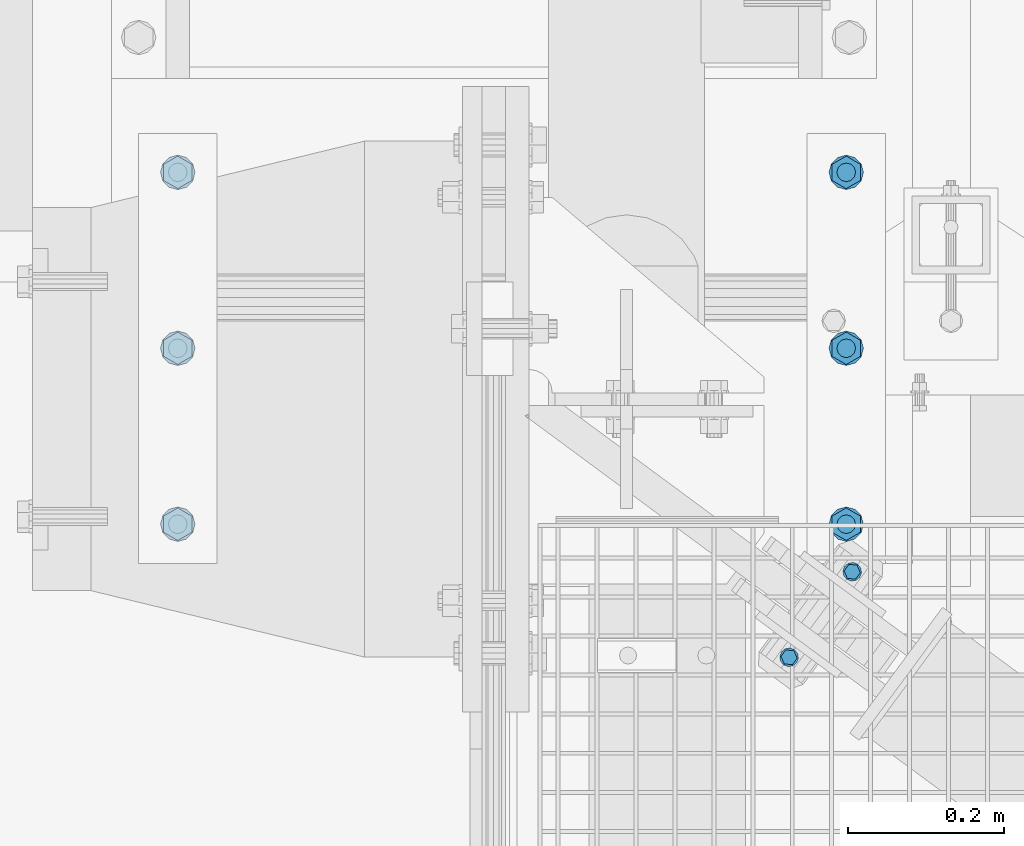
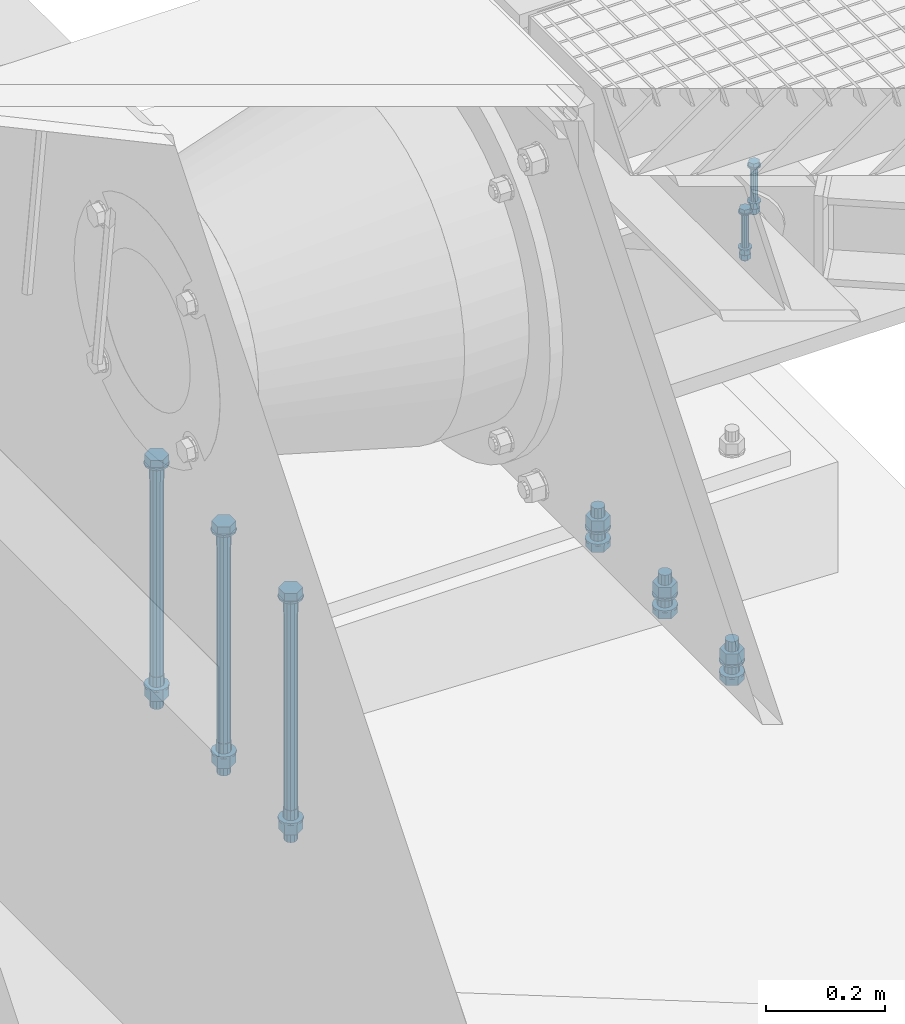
# One storey, part 33 of 1530: 3 mechanical fasteners.
"""IFC2X3 building model written with IfcOpenShell, lengths in millimetres."""

import ifcopenshell
import ifcopenshell.guid

model = None  # the IFC model being written
_history = None  # IfcOwnerHistory: only IFC2X3 demands one
_inside = {}  # id of a spatial element -> (the spatial element, [elements in it])
_under = {}  # id of a project, library or spatial element -> (it, [spatial elements below it])
_declared = {}  # id of a project -> (the project, [libraries it declares])
_typed = {}  # id of a type object -> (the type object, [elements of that type])
_made_of = {}  # id of a material, layer set ... -> (it, [elements and type objects made of it])


def new_model(schema):
    """Start an empty IFC model of exactly this schema.

    Asked for "IFC4X3", IfcOpenShell would pick the latest addendum, in which some entities
    have other attributes; the version numbers below select the first issue.
    IFC2X3 requires an IfcOwnerHistory on every rooted entity: one is made here for all.
    """
    global model, _history
    if schema == "IFC4X3":
        model = ifcopenshell.file(schema_version=(4, 3, 0, 0))
    else:
        model = ifcopenshell.file(schema=schema)
    _inside.clear()
    _under.clear()
    _declared.clear()
    _typed.clear()
    _made_of.clear()
    _history = None
    if model.schema == "IFC2X3":
        org = make("IfcOrganization", Name="unknown")
        user = make(
            "IfcPersonAndOrganization",
            ThePerson=make("IfcPerson", FamilyName="unknown"),
            TheOrganization=org,
        )
        app = make(
            "IfcApplication",
            ApplicationDeveloper=org,
            Version="unknown",
            ApplicationFullName="unknown",
            ApplicationIdentifier="unknown",
        )
        _history = make(
            "IfcOwnerHistory",
            OwningUser=user,
            OwningApplication=app,
            ChangeAction="ADDED",
            CreationDate=0,
        )
    return model


def make(cls, **values):
    """One entity of the class cls with the attributes given. An attribute that is None is left unset."""
    return model.create_entity(
        cls, **{name: value for name, value in values.items() if value is not None}
    )


def rooted(cls, **values):
    """An entity with a GlobalId (a new one), such as an element, a storey or a relation."""
    return make(cls, GlobalId=ifcopenshell.guid.new(), OwnerHistory=_history, **values)


def si_unit(unit_type, name, prefix=None):
    """IfcSIUnit, for example si_unit("LENGTHUNIT", "METRE", prefix="MILLI")."""
    return make("IfcSIUnit", UnitType=unit_type, Prefix=prefix, Name=name)


def assignment(units):
    """IfcUnitAssignment: the units of a project."""
    return None if units is None else make("IfcUnitAssignment", Units=units)


def point(xyz):
    """IfcCartesianPoint."""
    return None if xyz is None else make("IfcCartesianPoint", Coordinates=xyz)


def direction(xyz):
    """IfcDirection."""
    return None if xyz is None else make("IfcDirection", DirectionRatios=xyz)


def frame(location, z_axis=None, x_axis=None):
    """IfcAxis2Placement3D, a coordinate frame: its origin and axes. An axis left out is left unset."""
    return make(
        "IfcAxis2Placement3D",
        Location=point(location),
        Axis=direction(z_axis),
        RefDirection=direction(x_axis),
    )


def origin_with_axes():
    """The frame at (0, 0, 0) with the z axis (0, 0, 1) and the x axis (1, 0, 0) written out."""
    return frame((0.0, 0.0, 0.0), z_axis=(0.0, 0.0, 1.0), x_axis=(1.0, 0.0, 0.0))


def place(relative_to, where):
    """IfcLocalPlacement: puts the frame where relative to a parent placement (None: the world)."""
    return make(
        "IfcLocalPlacement", PlacementRelTo=relative_to, RelativePlacement=where
    )


def context(
    kind, dimensions, precision=None, world=None, true_north=None, identifier=None
):
    """IfcGeometricRepresentationContext, for example the 3D "Model" context."""
    return make(
        "IfcGeometricRepresentationContext",
        ContextIdentifier=identifier,
        ContextType=kind,
        CoordinateSpaceDimension=dimensions,
        Precision=precision,
        WorldCoordinateSystem=world,
        TrueNorth=true_north,
    )


def subcontext(parent, identifier, kind, view, scale=None):
    """IfcGeometricRepresentationSubContext, for example "Body" below "Model"."""
    return make(
        "IfcGeometricRepresentationSubContext",
        ContextIdentifier=identifier,
        ContextType=kind,
        ParentContext=parent,
        TargetScale=scale,
        TargetView=view,
    )


def project(units=None, contexts=None):
    """IfcProject with its units and contexts."""
    return rooted(
        "IfcProject",
        Name="project",
        RepresentationContexts=contexts,
        UnitsInContext=assignment(units),
    )


def spatial(cls, under=None, at=None, **own):
    """A site, building, storey or space (cls), placed at a placement, below another one or the project."""
    s = rooted(cls, ObjectPlacement=at, **own)
    if under is not None:
        _under.setdefault(under.id(), (under, []))[1].append(s)
    return s


def faces_of(points, faces, orient=None, outer=None):
    """IfcFace entities. A face is a list of loops; a loop is a list of indices into points, from 0.

    orient and outer hold one flag for each loop. By default every Orientation is true, the
    first loop of a face is its IfcFaceOuterBound and the others are IfcFaceBound.
    """
    made = []
    for i, loops in enumerate(faces):
        bounds = []
        for j, loop in enumerate(loops):
            is_outer = j == 0 if outer is None else outer[i][j]
            bounds.append(
                make(
                    "IfcFaceOuterBound" if is_outer else "IfcFaceBound",
                    Bound=make("IfcPolyLoop", Polygon=[points[k] for k in loop]),
                    Orientation=True if orient is None else orient[i][j],
                )
            )
        made.append(make("IfcFace", Bounds=bounds))
    return made


def faceted_brep(points, faces, orient=None, outer=None, voids=None):
    """IfcFacetedBrep: a solid bounded by flat faces; with voids (closed shells), ...WithVoids."""
    shared = [point(p) for p in points]
    hull = make("IfcClosedShell", CfsFaces=faces_of(shared, faces, orient, outer))
    if voids is None:
        return make("IfcFacetedBrep", Outer=hull)
    return make(
        "IfcFacetedBrepWithVoids",
        Outer=hull,
        Voids=[
            make(cls, CfsFaces=faces_of(shared, fs, o, b)) for cls, fs, o, b in voids
        ],
    )


def shape(context_of_items, identifier, shape_type, items):
    """IfcShapeRepresentation: the items that make up one representation, for example the "Body"."""
    return make(
        "IfcShapeRepresentation",
        ContextOfItems=context_of_items,
        RepresentationIdentifier=identifier,
        RepresentationType=shape_type,
        Items=items,
    )


def source(mapping_origin, context_of_items, identifier, shape_type, items):
    """IfcRepresentationMap: a shape defined once, which mapped items show again and again."""
    return make(
        "IfcRepresentationMap",
        MappingOrigin=mapping_origin,
        MappedRepresentation=shape(context_of_items, identifier, shape_type, items),
    )


def transform(
    local_origin,
    x_axis=None,
    y_axis=None,
    z_axis=None,
    scale=None,
    scale2=None,
    scale3=None,
    uniform=True,
):
    """IfcCartesianTransformationOperator3D, or its non-uniform kind. x_axis, y_axis, z_axis: its Axis1, 2, 3."""
    if uniform:
        return make(
            "IfcCartesianTransformationOperator3D",
            Axis1=direction(x_axis),
            Axis2=direction(y_axis),
            LocalOrigin=point(local_origin),
            Scale=scale,
            Axis3=direction(z_axis),
        )
    return make(
        "IfcCartesianTransformationOperator3DnonUniform",
        Axis1=direction(x_axis),
        Axis2=direction(y_axis),
        LocalOrigin=point(local_origin),
        Scale=scale,
        Axis3=direction(z_axis),
        Scale2=scale2,
        Scale3=scale3,
    )


def mapped(mapping_source, mapping_target):
    """IfcMappedItem: shows the shape of a source again, moved by a transform."""
    return make(
        "IfcMappedItem", MappingSource=mapping_source, MappingTarget=mapping_target
    )


def material(Name=None, Category=None):
    """IfcMaterial."""
    return make("IfcMaterial", Name=Name, Category=Category)


def made_of(thing, what):
    """Note that an element or type object is made of a material, layer set ...; save() writes the relation."""
    if what is not None:
        _made_of.setdefault(what.id(), (what, []))[1].append(thing)
    return thing


def type_object(cls, material=None, **own):
    """A type object (cls), such as IfcWallType, which elements share."""
    return made_of(rooted(cls, **own), material)


def element(
    cls,
    number,
    at=None,
    inside=None,
    cuts=None,
    type_object=None,
    material=None,
    context=None,
    identifier="Body",
    shape_type=None,
    held_by="IfcProductDefinitionShape",
    body=None,
    shapes=None,
    **own,
):
    """One element of the class cls, such as IfcWall. Its Tag is "e" and its number.

    at: its placement. inside: the storey or other place that contains it. cuts: it is an
    opening in that element (IfcRelVoidsElement). A single representation is given by context,
    identifier, shape_type and body (its items); several are given by shapes. held_by: the class
    of the entity that holds the representations. save() writes the other relations.
    """
    e = rooted(cls, Tag="e%d" % number, ObjectPlacement=at, **own)
    if body is not None:
        shapes = [shape(context, identifier, shape_type, body)]
    if shapes is not None:
        e.Representation = make(held_by, Representations=shapes)
    if inside is not None:
        _inside.setdefault(inside.id(), (inside, []))[1].append(e)
    if cuts is not None:
        rooted(
            "IfcRelVoidsElement", RelatingBuildingElement=cuts, RelatedOpeningElement=e
        )
    if type_object is not None:
        _typed.setdefault(type_object.id(), (type_object, []))[1].append(e)
    return made_of(e, material)


def aggregate(whole, parts):
    """IfcRelAggregates: a whole, such as a stair, and the parts it consists of."""
    return rooted("IfcRelAggregates", RelatingObject=whole, RelatedObjects=parts)


def save(model, path):
    """Write the relations noted so far, then the file.

    IfcRelAggregates (storeys below a building ...), IfcRelContainedInSpatialStructure (elements
    in a storey), IfcRelDefinesByType, IfcRelAssociatesMaterial and IfcRelDeclares: one each for
    every whole, place, type object, material and project.
    """
    for whole, parts in _under.values():
        aggregate(whole, parts)
    for where, things in _inside.values():
        rooted(
            "IfcRelContainedInSpatialStructure",
            RelatedElements=things,
            RelatingStructure=where,
        )
    for kind, things in _typed.values():
        rooted("IfcRelDefinesByType", RelatedObjects=things, RelatingType=kind)
    for what, things in _made_of.values():
        rooted("IfcRelAssociatesMaterial", RelatedObjects=things, RelatingMaterial=what)
    for by, libraries in _declared.values():
        rooted("IfcRelDeclares", RelatingContext=by, RelatedDefinitions=libraries)
    model.write(path)


model = new_model("IFC2X3")

# Units and contexts
model_context = context("Model", 3, precision=1e-05, world=origin_with_axes())
body_context = subcontext(model_context, "Body", "Model", "MODEL_VIEW")
ifc_project = project(units=[si_unit("LENGTHUNIT", "METRE", prefix="MILLI"), si_unit("AREAUNIT", "SQUARE_METRE"), si_unit("VOLUMEUNIT", "CUBIC_METRE"), si_unit("MASSUNIT", "GRAM", prefix="KILO"), si_unit("TIMEUNIT", "SECOND"), si_unit("PLANEANGLEUNIT", "RADIAN"), si_unit("SOLIDANGLEUNIT", "STERADIAN"), si_unit("THERMODYNAMICTEMPERATUREUNIT", "DEGREE_CELSIUS"), si_unit("LUMINOUSINTENSITYUNIT", "LUMEN")], contexts=[model_context])

# Site, building, storey
site_placement = place(None, origin_with_axes())
site = spatial("IfcSite", under=ifc_project, at=site_placement, Name="Brattvåg", CompositionType="ELEMENT")
building_placement = place(site_placement, origin_with_axes())
building = spatial("IfcBuilding", under=site, at=building_placement, Name="Undefined", CompositionType="ELEMENT")
storey_placement = place(building_placement, origin_with_axes())
storey = spatial("IfcBuildingStorey", under=building, at=storey_placement, Name="Undefined", CompositionType="ELEMENT", Elevation=0.0)

# Mechanical fasteners
ifc_material = material(Name="8")
mechanical_fastener_type = type_object("IfcMechanicalFastenerType", Name="Bolt assembly")
shared_shape_1 = source(origin_with_axes(), body_context, "Body", "Brep", [
    faceted_brep([(10.3923048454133, -9.99999999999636, 0.0), (5.19615242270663, -9.99999999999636, 9.0), (-5.19615242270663, -9.99999999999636, 9.0), (-10.3923048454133, -9.99999999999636, 1.27269028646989e-15), (-5.19615242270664, -9.99999999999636, -9.0), (5.19615242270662, -9.99999999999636, -9.0), (5.19615242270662, -2.49999999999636, -9.0), (-5.19615242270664, -2.49999999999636, -9.0), (-10.3923048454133, -2.49999999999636, 1.27269028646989e-15), (-5.19615242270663, -2.49999999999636, 9.0), (5.19615242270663, -2.49999999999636, 9.0), (10.3923048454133, -2.49999999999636, 0.0), (6.0, -2.49999999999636, 0.0), (5.19615242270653, -2.49999999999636, 3.00000000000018), (2.99999999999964, -2.49999999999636, 5.19615242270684), (-6.21801588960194e-13, -2.49999999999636, 6.0), (-3.00000000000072, -2.49999999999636, 5.19615242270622), (-5.19615242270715, -2.49999999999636, 2.9999999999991), (-6.0, -2.49999999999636, -1.24360317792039e-12), (-5.19615242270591, -2.49999999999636, -3.00000000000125), (-2.99999999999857, -2.49999999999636, -5.19615242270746), (1.85874342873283e-12, -2.49999999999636, -6.0), (3.00000000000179, -2.49999999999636, -5.1961524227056), (5.19615242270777, -2.49999999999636, -2.99999999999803), (5.19615242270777, 97.4999999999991, -2.99999999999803), (3.00000000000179, 97.4999999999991, -5.1961524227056), (1.85874342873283e-12, 97.4999999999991, -6.0), (-2.99999999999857, 97.4999999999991, -5.19615242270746), (-5.19615242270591, 97.4999999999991, -3.00000000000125), (-6.0, 97.4999999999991, -1.24360317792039e-12), (-5.19615242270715, 97.4999999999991, 2.9999999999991), (-3.00000000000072, 97.4999999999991, 5.19615242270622), (-6.21801588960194e-13, 97.4999999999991, 6.0), (2.99999999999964, 97.4999999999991, 5.19615242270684), (5.19615242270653, 97.4999999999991, 3.00000000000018), (6.0, 97.4999999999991, 0.0), (12.0, -2.49999999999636, 0.0), (10.3923048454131, -2.49999999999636, 6.00000000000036), (5.99999999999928, -2.49999999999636, 10.3923048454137), (-1.24360317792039e-12, -2.49999999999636, 12.0), (-6.00000000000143, -2.49999999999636, 10.3923048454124), (-10.3923048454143, -2.49999999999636, 5.99999999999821), (-12.0, -2.49999999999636, -2.48720635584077e-12), (-10.3923048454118, -2.49999999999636, -6.00000000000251), (-5.99999999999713, -2.49999999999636, -10.3923048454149), (3.71748685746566e-12, -2.49999999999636, -12.0), (6.00000000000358, -2.49999999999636, -10.3923048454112), (10.3923048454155, -2.49999999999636, -5.99999999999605), (10.3923048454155, 3.63797880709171e-12, -5.99999999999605), (6.00000000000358, 3.63797880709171e-12, -10.3923048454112), (3.71748685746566e-12, 3.63797880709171e-12, -12.0), (-5.99999999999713, 3.63797880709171e-12, -10.3923048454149), (-10.3923048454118, 3.63797880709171e-12, -6.00000000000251), (-12.0, 3.63797880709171e-12, -2.48720635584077e-12), (-10.3923048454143, 3.63797880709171e-12, 5.99999999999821), (-6.00000000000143, 3.63797880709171e-12, 10.3923048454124), (-1.24360317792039e-12, 3.63797880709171e-12, 12.0), (5.99999999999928, 3.63797880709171e-12, 10.3923048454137), (10.3923048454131, 3.63797880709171e-12, 6.00000000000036), (12.0, 3.63797880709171e-12, 0.0), (12.0, 69.9999999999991, 0.0), (10.3923048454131, 69.9999999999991, 6.00000000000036), (5.99999999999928, 69.9999999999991, 10.3923048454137), (-1.24360317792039e-12, 69.9999999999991, 12.0), (-6.00000000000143, 69.9999999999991, 10.3923048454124), (-10.3923048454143, 69.9999999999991, 5.99999999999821), (-12.0, 69.9999999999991, -2.48720635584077e-12), (-10.3923048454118, 69.9999999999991, -6.00000000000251), (-5.99999999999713, 69.9999999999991, -10.3923048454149), (3.71748685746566e-12, 69.9999999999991, -12.0), (6.00000000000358, 69.9999999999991, -10.3923048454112), (10.3923048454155, 69.9999999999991, -5.99999999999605), (10.3923048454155, 72.4999999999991, -5.99999999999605), (6.00000000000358, 72.4999999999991, -10.3923048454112), (3.71748685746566e-12, 72.4999999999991, -12.0), (-5.99999999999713, 72.4999999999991, -10.3923048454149), (-10.3923048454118, 72.4999999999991, -6.00000000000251), (-12.0, 72.4999999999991, -2.48720635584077e-12), (-10.3923048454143, 72.4999999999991, 5.99999999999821), (-6.00000000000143, 72.4999999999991, 10.3923048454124), (-1.24360317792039e-12, 72.4999999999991, 12.0), (5.99999999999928, 72.4999999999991, 10.3923048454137), (10.3923048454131, 72.4999999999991, 6.00000000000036), (12.0, 72.4999999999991, 0.0), (10.3923048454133, 72.4999999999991, 0.0), (5.19615242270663, 72.4999999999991, 9.0), (-5.19615242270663, 72.4999999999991, 9.0), (-10.3923048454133, 72.4999999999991, 1.27269028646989e-15), (-5.19615242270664, 72.4999999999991, -9.0), (5.19615242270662, 72.4999999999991, -9.0), (5.19615242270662, 83.300000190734, -9.0), (-5.19615242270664, 83.300000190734, -9.0), (-10.3923048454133, 83.300000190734, 1.27269028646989e-15), (-5.19615242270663, 83.300000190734, 9.0), (5.19615242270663, 83.300000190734, 9.0), (10.3923048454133, 83.300000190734, 0.0), (9.0, 83.300000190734, 5.19615242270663), (6.36345143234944e-16, 83.300000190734, 10.3923048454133), (-9.0, 83.300000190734, 5.19615242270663), (-9.0, 83.300000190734, -5.19615242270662), (-1.11392563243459e-14, 83.300000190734, -10.3923048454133), (8.99999999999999, 83.300000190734, -5.19615242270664), (8.99999999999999, 94.1000003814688, -5.19615242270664), (-1.11392563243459e-14, 94.1000003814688, -10.3923048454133), (-9.0, 94.1000003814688, -5.19615242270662), (-9.0, 94.1000003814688, 5.19615242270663), (6.36345143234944e-16, 94.1000003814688, 10.3923048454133), (9.0, 94.1000003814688, 5.19615242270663)], [[[0, 1, 2, 3, 4, 5]], [[6, 7, 8, 9, 10, 11]], [[0, 11, 10, 1]], [[1, 10, 9, 2]], [[2, 9, 8, 3]], [[3, 8, 7, 4]], [[4, 7, 6, 5]], [[5, 6, 11, 0]], [[12, 13, 14, 15, 16, 17, 18, 19, 20, 21, 22, 23]], [[24, 25, 26, 27, 28, 29, 30, 31, 32, 33, 34, 35]], [[12, 35, 34, 13]], [[13, 34, 33, 14]], [[14, 33, 32, 15]], [[15, 32, 31, 16]], [[16, 31, 30, 17]], [[17, 30, 29, 18]], [[18, 29, 28, 19]], [[19, 28, 27, 20]], [[20, 27, 26, 21]], [[21, 26, 25, 22]], [[22, 25, 24, 23]], [[23, 24, 35, 12]], [[36, 37, 38, 39, 40, 41, 42, 43, 44, 45, 46, 47]], [[48, 49, 50, 51, 52, 53, 54, 55, 56, 57, 58, 59]], [[36, 59, 58, 37]], [[37, 58, 57, 38]], [[38, 57, 56, 39]], [[39, 56, 55, 40]], [[40, 55, 54, 41]], [[41, 54, 53, 42]], [[42, 53, 52, 43]], [[43, 52, 51, 44]], [[44, 51, 50, 45]], [[45, 50, 49, 46]], [[46, 49, 48, 47]], [[47, 48, 59, 36]], [[60, 61, 62, 63, 64, 65, 66, 67, 68, 69, 70, 71]], [[72, 73, 74, 75, 76, 77, 78, 79, 80, 81, 82, 83]], [[60, 83, 82, 61]], [[61, 82, 81, 62]], [[62, 81, 80, 63]], [[63, 80, 79, 64]], [[64, 79, 78, 65]], [[65, 78, 77, 66]], [[66, 77, 76, 67]], [[67, 76, 75, 68]], [[68, 75, 74, 69]], [[69, 74, 73, 70]], [[70, 73, 72, 71]], [[71, 72, 83, 60]], [[84, 85, 86, 87, 88, 89]], [[90, 91, 92, 93, 94, 95]], [[84, 95, 94, 85]], [[85, 94, 93, 86]], [[86, 93, 92, 87]], [[87, 92, 91, 88]], [[88, 91, 90, 89]], [[89, 90, 95, 84]], [[96, 97, 98, 99, 100, 101]], [[102, 103, 104, 105, 106, 107]], [[96, 107, 106, 97]], [[97, 106, 105, 98]], [[98, 105, 104, 99]], [[99, 104, 103, 100]], [[100, 103, 102, 101]], [[101, 102, 107, 96]]]),
    faceted_brep([(7.0, -9.09494701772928e-13, 0.0), (6.06217782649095, -9.09494701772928e-13, 3.50000000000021), (3.49999999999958, -9.09494701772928e-13, 6.06217782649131), (-7.25435187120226e-13, -9.09494701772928e-13, 7.0), (-3.50000000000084, -9.09494701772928e-13, 6.06217782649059), (-6.06217782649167, -9.09494701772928e-13, 3.49999999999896), (-7.0, -9.09494701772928e-13, -1.45087037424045e-12), (-6.06217782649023, -9.09494701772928e-13, -3.50000000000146), (-3.49999999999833, -9.09494701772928e-13, -6.06217782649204), (2.1685340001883e-12, -9.09494701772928e-13, -7.0), (3.50000000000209, -9.09494701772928e-13, -6.06217782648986), (6.0621778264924, -9.09494701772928e-13, -3.4999999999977), (6.0621778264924, 70.0999999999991, -3.4999999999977), (3.50000000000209, 70.0999999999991, -6.06217782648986), (2.1685340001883e-12, 70.0999999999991, -7.0), (-3.49999999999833, 70.0999999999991, -6.06217782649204), (-6.06217782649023, 70.0999999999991, -3.50000000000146), (-7.0, 70.0999999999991, -1.45087037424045e-12), (-6.06217782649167, 70.0999999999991, 3.49999999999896), (-3.50000000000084, 70.0999999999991, 6.06217782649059), (-7.25435187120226e-13, 70.0999999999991, 7.0), (3.49999999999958, 70.0999999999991, 6.06217782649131), (6.06217782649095, 70.0999999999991, 3.50000000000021), (7.0, 70.0999999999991, 0.0)], [[[0, 1, 2, 3, 4, 5, 6, 7, 8, 9, 10, 11]], [[12, 13, 14, 15, 16, 17, 18, 19, 20, 21, 22, 23]], [[0, 23, 22, 1]], [[1, 22, 21, 2]], [[2, 21, 20, 3]], [[3, 20, 19, 4]], [[4, 19, 18, 5]], [[5, 18, 17, 6]], [[6, 17, 16, 7]], [[7, 16, 15, 8]], [[8, 15, 14, 9]], [[9, 14, 13, 10]], [[10, 13, 12, 11]], [[11, 12, 23, 0]]]),
])
mechanical_fastener_1_placement = place(storey_placement, frame((342.923723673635, 8669.72581415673, -410.000000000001), z_axis=(-0.804538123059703, 0.593901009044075, 0.0), x_axis=(0.593901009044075, 0.804538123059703, 0.0)))
element("IfcMechanicalFastener", 1, at=mechanical_fastener_1_placement, inside=storey, type_object=mechanical_fastener_type, material=ifc_material, Name="Bolt assembly", NominalDiameter=12.0, NominalLength=100.0, context=body_context, shape_type="MappedRepresentation", body=[
    mapped(shared_shape_1, transform((0.0, 0.0, 0.0))),
    mapped(shared_shape_1, transform((136.0, 0.0, 0.0))),
])
shared_shape_2 = source(origin_with_axes(), body_context, "Body", "Brep", [
    faceted_brep([(20.7846096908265, -39.0003051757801, 0.0), (10.3923048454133, -39.0003051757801, 18.0), (-10.3923048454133, -39.0003051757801, 18.0), (-20.7846096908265, -39.0003051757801, 2.54538057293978e-15), (-10.3923048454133, -39.0003051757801, -18.0), (10.3923048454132, -39.0003051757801, -18.0), (10.3923048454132, -24.0003051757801, -18.0), (-10.3923048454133, -24.0003051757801, -18.0), (-20.7846096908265, -24.0003051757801, 2.54538057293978e-15), (-10.3923048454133, -24.0003051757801, 18.0), (10.3923048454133, -24.0003051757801, 18.0), (20.7846096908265, -24.0003051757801, 0.0), (12.0, -24.0003051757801, 0.0), (10.3923048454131, -24.0003051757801, 6.00000000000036), (5.99999999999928, -24.0003051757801, 10.3923048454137), (-1.24360317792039e-12, -24.0003051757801, 12.0), (-6.00000000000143, -24.0003051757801, 10.3923048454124), (-10.3923048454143, -24.0003051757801, 5.99999999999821), (-12.0, -24.0003051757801, -2.48720635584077e-12), (-10.3923048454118, -24.0003051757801, -6.00000000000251), (-5.99999999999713, -24.0003051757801, -10.3923048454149), (3.71748685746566e-12, -24.0003051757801, -12.0), (6.00000000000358, -24.0003051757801, -10.3923048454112), (10.3923048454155, -24.0003051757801, -5.99999999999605), (10.3923048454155, 45.9996948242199, -5.99999999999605), (6.00000000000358, 45.9996948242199, -10.3923048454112), (3.71748685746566e-12, 45.9996948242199, -12.0), (-5.99999999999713, 45.9996948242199, -10.3923048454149), (-10.3923048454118, 45.9996948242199, -6.00000000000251), (-12.0, 45.9996948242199, -2.48720635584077e-12), (-10.3923048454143, 45.9996948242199, 5.99999999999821), (-6.00000000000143, 45.9996948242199, 10.3923048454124), (-1.24360317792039e-12, 45.9996948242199, 12.0), (5.99999999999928, 45.9996948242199, 10.3923048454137), (10.3923048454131, 45.9996948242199, 6.00000000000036), (12.0, 45.9996948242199, 0.0), (22.0, -24.0003051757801, 0.0), (19.0525588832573, -24.0003051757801, 11.0000000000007), (10.9999999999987, -24.0003051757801, 19.0525588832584), (-2.27993915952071e-12, -24.0003051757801, 22.0), (-11.0000000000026, -24.0003051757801, 19.0525588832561), (-19.0525588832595, -24.0003051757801, 10.9999999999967), (-22.0, -24.0003051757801, -4.55987831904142e-12), (-19.052558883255, -24.0003051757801, -11.0000000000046), (-10.9999999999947, -24.0003051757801, -19.0525588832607), (6.81539257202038e-12, -24.0003051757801, -22.0), (11.0000000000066, -24.0003051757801, -19.0525588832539), (19.0525588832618, -24.0003051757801, -10.9999999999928), (19.0525588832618, -20.0003051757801, -10.9999999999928), (11.0000000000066, -20.0003051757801, -19.0525588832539), (6.81539257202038e-12, -20.0003051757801, -22.0), (-10.9999999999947, -20.0003051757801, -19.0525588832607), (-19.052558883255, -20.0003051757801, -11.0000000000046), (-22.0, -20.0003051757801, -4.55987831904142e-12), (-19.0525588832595, -20.0003051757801, 10.9999999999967), (-11.0000000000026, -20.0003051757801, 19.0525588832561), (-2.27993915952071e-12, -20.0003051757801, 22.0), (10.9999999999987, -20.0003051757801, 19.0525588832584), (19.0525588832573, -20.0003051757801, 11.0000000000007), (22.0, -20.0003051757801, 0.0), (22.0, -0.000305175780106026, 0.0), (19.0525588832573, -0.000305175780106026, 11.0000000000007), (10.9999999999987, -0.000305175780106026, 19.0525588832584), (-2.27993915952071e-12, -0.000305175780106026, 22.0), (-11.0000000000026, -0.000305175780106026, 19.0525588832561), (-19.0525588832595, -0.000305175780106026, 10.9999999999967), (-22.0, -0.000305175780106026, -4.55987831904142e-12), (-19.052558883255, -0.000305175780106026, -11.0000000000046), (-10.9999999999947, -0.000305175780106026, -19.0525588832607), (6.81539257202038e-12, -0.000305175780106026, -22.0), (11.0000000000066, -0.000305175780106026, -19.0525588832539), (19.0525588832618, -0.000305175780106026, -10.9999999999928), (19.0525588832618, 3.99969482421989, -10.9999999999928), (11.0000000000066, 3.99969482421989, -19.0525588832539), (6.81539257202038e-12, 3.99969482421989, -22.0), (-10.9999999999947, 3.99969482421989, -19.0525588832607), (-19.052558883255, 3.99969482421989, -11.0000000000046), (-22.0, 3.99969482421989, -4.55987831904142e-12), (-19.0525588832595, 3.99969482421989, 10.9999999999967), (-11.0000000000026, 3.99969482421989, 19.0525588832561), (-2.27993915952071e-12, 3.99969482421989, 22.0), (10.9999999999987, 3.99969482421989, 19.0525588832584), (19.0525588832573, 3.99969482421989, 11.0000000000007), (22.0, 3.99969482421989, 0.0), (20.7846096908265, 3.99969482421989, 0.0), (10.3923048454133, 3.99969482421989, 18.0), (-10.3923048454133, 3.99969482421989, 18.0), (-20.7846096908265, 3.99969482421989, 2.54538057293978e-15), (-10.3923048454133, 3.99969482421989, -18.0), (10.3923048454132, 3.99969482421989, -18.0), (10.3923048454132, 25.4996948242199, -18.0), (-10.3923048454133, 25.4996948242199, -18.0), (-20.7846096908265, 25.4996948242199, 2.54538057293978e-15), (-10.3923048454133, 25.4996948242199, 18.0), (10.3923048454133, 25.4996948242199, 18.0), (20.7846096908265, 25.4996948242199, 0.0)], [[[0, 1, 2, 3, 4, 5]], [[6, 7, 8, 9, 10, 11]], [[0, 11, 10, 1]], [[1, 10, 9, 2]], [[2, 9, 8, 3]], [[3, 8, 7, 4]], [[4, 7, 6, 5]], [[5, 6, 11, 0]], [[12, 13, 14, 15, 16, 17, 18, 19, 20, 21, 22, 23]], [[24, 25, 26, 27, 28, 29, 30, 31, 32, 33, 34, 35]], [[12, 35, 34, 13]], [[13, 34, 33, 14]], [[14, 33, 32, 15]], [[15, 32, 31, 16]], [[16, 31, 30, 17]], [[17, 30, 29, 18]], [[18, 29, 28, 19]], [[19, 28, 27, 20]], [[20, 27, 26, 21]], [[21, 26, 25, 22]], [[22, 25, 24, 23]], [[23, 24, 35, 12]], [[36, 37, 38, 39, 40, 41, 42, 43, 44, 45, 46, 47]], [[48, 49, 50, 51, 52, 53, 54, 55, 56, 57, 58, 59]], [[36, 59, 58, 37]], [[37, 58, 57, 38]], [[38, 57, 56, 39]], [[39, 56, 55, 40]], [[40, 55, 54, 41]], [[41, 54, 53, 42]], [[42, 53, 52, 43]], [[43, 52, 51, 44]], [[44, 51, 50, 45]], [[45, 50, 49, 46]], [[46, 49, 48, 47]], [[47, 48, 59, 36]], [[60, 61, 62, 63, 64, 65, 66, 67, 68, 69, 70, 71]], [[72, 73, 74, 75, 76, 77, 78, 79, 80, 81, 82, 83]], [[60, 83, 82, 61]], [[61, 82, 81, 62]], [[62, 81, 80, 63]], [[63, 80, 79, 64]], [[64, 79, 78, 65]], [[65, 78, 77, 66]], [[66, 77, 76, 67]], [[67, 76, 75, 68]], [[68, 75, 74, 69]], [[69, 74, 73, 70]], [[70, 73, 72, 71]], [[71, 72, 83, 60]], [[84, 85, 86, 87, 88, 89]], [[90, 91, 92, 93, 94, 95]], [[84, 95, 94, 85]], [[85, 94, 93, 86]], [[86, 93, 92, 87]], [[87, 92, 91, 88]], [[88, 91, 90, 89]], [[89, 90, 95, 84]]]),
    faceted_brep([(13.0, -20.0003051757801, 0.0), (11.2583302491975, -20.0003051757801, 6.50000000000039), (6.49999999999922, -20.0003051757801, 11.2583302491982), (-1.34723677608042e-12, -20.0003051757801, 13.0), (-6.50000000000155, -20.0003051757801, 11.2583302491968), (-11.2583302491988, -20.0003051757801, 6.49999999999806), (-13.0, -20.0003051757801, -2.69447355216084e-12), (-11.2583302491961, -20.0003051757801, -6.50000000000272), (-6.4999999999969, -20.0003051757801, -11.2583302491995), (4.02727742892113e-12, -20.0003051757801, -13.0), (6.50000000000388, -20.0003051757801, -11.2583302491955), (11.2583302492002, -20.0003051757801, -6.49999999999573), (11.2583302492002, 0.0996948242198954, -6.49999999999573), (6.50000000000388, 0.0996948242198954, -11.2583302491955), (4.02727742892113e-12, 0.0996948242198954, -13.0), (-6.4999999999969, 0.0996948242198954, -11.2583302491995), (-11.2583302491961, 0.0996948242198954, -6.50000000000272), (-13.0, 0.0996948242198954, -2.69447355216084e-12), (-11.2583302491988, 0.0996948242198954, 6.49999999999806), (-6.50000000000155, 0.0996948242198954, 11.2583302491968), (-1.34723677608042e-12, 0.0996948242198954, 13.0), (6.49999999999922, 0.0996948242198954, 11.2583302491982), (11.2583302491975, 0.0996948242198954, 6.50000000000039), (13.0, 0.0996948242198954, 0.0)], [[[0, 1, 2, 3, 4, 5, 6, 7, 8, 9, 10, 11]], [[12, 13, 14, 15, 16, 17, 18, 19, 20, 21, 22, 23]], [[0, 23, 22, 1]], [[1, 22, 21, 2]], [[2, 21, 20, 3]], [[3, 20, 19, 4]], [[4, 19, 18, 5]], [[5, 18, 17, 6]], [[6, 17, 16, 7]], [[7, 16, 15, 8]], [[8, 15, 14, 9]], [[9, 14, 13, 10]], [[10, 13, 12, 11]], [[11, 12, 23, 0]]]),
])
mechanical_fastener_2_placement = place(storey_placement, frame((416.009799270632, 8839.99881744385, -1458.00001144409), z_axis=(1.0, 0.0, 0.0), x_axis=(0.0, 1.0, 0.0)))
element("IfcMechanicalFastener", 2, at=mechanical_fastener_2_placement, inside=storey, type_object=mechanical_fastener_type, material=ifc_material, Name="Bolt assembly", NominalDiameter=24.0, NominalLength=70.0, context=body_context, shape_type="MappedRepresentation", body=[
    mapped(shared_shape_2, transform((0.0, 0.0, 0.0))),
    mapped(shared_shape_2, transform((225.0, 0.0, 0.0))),
    mapped(shared_shape_2, transform((450.0, 0.0, 0.0))),
])
shared_shape_3 = source(origin_with_axes(), body_context, "Body", "Brep", [
    faceted_brep([(20.7846096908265, -19.0, 0.0), (10.3923048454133, -19.0, 18.0), (-10.3923048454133, -19.0, 18.0), (-20.7846096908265, -19.0, 2.54538057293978e-15), (-10.3923048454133, -19.0, -18.0), (10.3923048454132, -19.0, -18.0), (10.3923048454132, -4.0, -18.0), (-10.3923048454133, -4.0, -18.0), (-20.7846096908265, -4.0, 2.54538057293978e-15), (-10.3923048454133, -4.0, 18.0), (10.3923048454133, -4.0, 18.0), (20.7846096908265, -4.0, 0.0), (12.0, -4.0, 0.0), (10.3923048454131, -4.0, 6.00000000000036), (5.99999999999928, -4.0, 10.3923048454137), (-1.24360317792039e-12, -4.0, 12.0), (-6.00000000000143, -4.0, 10.3923048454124), (-10.3923048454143, -4.0, 5.99999999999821), (-12.0, -4.0, -2.48720635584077e-12), (-10.3923048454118, -4.0, -6.00000000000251), (-5.99999999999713, -4.0, -10.3923048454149), (3.71748685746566e-12, -4.0, -12.0), (6.00000000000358, -4.0, -10.3923048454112), (10.3923048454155, -4.0, -5.99999999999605), (10.3923048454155, 496.0, -5.99999999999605), (6.00000000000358, 496.0, -10.3923048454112), (3.71748685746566e-12, 496.0, -12.0), (-5.99999999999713, 496.0, -10.3923048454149), (-10.3923048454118, 496.0, -6.00000000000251), (-12.0, 496.0, -2.48720635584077e-12), (-10.3923048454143, 496.0, 5.99999999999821), (-6.00000000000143, 496.0, 10.3923048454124), (-1.24360317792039e-12, 496.0, 12.0), (5.99999999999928, 496.0, 10.3923048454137), (10.3923048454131, 496.0, 6.00000000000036), (12.0, 496.0, 0.0), (22.0, -4.0, 0.0), (19.0525588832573, -4.0, 11.0000000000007), (10.9999999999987, -4.0, 19.0525588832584), (-2.27993915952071e-12, -4.0, 22.0), (-11.0000000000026, -4.0, 19.0525588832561), (-19.0525588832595, -4.0, 10.9999999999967), (-22.0, -4.0, -4.55987831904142e-12), (-19.052558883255, -4.0, -11.0000000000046), (-10.9999999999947, -4.0, -19.0525588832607), (6.81539257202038e-12, -4.0, -22.0), (11.0000000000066, -4.0, -19.0525588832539), (19.0525588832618, -4.0, -10.9999999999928), (19.0525588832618, 0.0, -10.9999999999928), (11.0000000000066, 0.0, -19.0525588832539), (6.81539257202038e-12, 0.0, -22.0), (-10.9999999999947, 0.0, -19.0525588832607), (-19.052558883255, 0.0, -11.0000000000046), (-22.0, 0.0, -4.55987831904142e-12), (-19.0525588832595, 0.0, 10.9999999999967), (-11.0000000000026, 0.0, 19.0525588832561), (-2.27993915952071e-12, 0.0, 22.0), (10.9999999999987, 0.0, 19.0525588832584), (19.0525588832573, 0.0, 11.0000000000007), (22.0, 0.0, 0.0), (22.0, 450.00030517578, 0.0), (19.0525588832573, 450.00030517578, 11.0000000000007), (10.9999999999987, 450.00030517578, 19.0525588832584), (-2.27993915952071e-12, 450.00030517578, 22.0), (-11.0000000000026, 450.00030517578, 19.0525588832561), (-19.0525588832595, 450.00030517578, 10.9999999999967), (-22.0, 450.00030517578, -4.55987831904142e-12), (-19.052558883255, 450.00030517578, -11.0000000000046), (-10.9999999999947, 450.00030517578, -19.0525588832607), (6.81539257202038e-12, 450.00030517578, -22.0), (11.0000000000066, 450.00030517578, -19.0525588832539), (19.0525588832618, 450.00030517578, -10.9999999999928), (19.0525588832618, 454.00030517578, -10.9999999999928), (11.0000000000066, 454.00030517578, -19.0525588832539), (6.81539257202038e-12, 454.00030517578, -22.0), (-10.9999999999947, 454.00030517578, -19.0525588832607), (-19.052558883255, 454.00030517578, -11.0000000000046), (-22.0, 454.00030517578, -4.55987831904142e-12), (-19.0525588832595, 454.00030517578, 10.9999999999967), (-11.0000000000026, 454.00030517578, 19.0525588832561), (-2.27993915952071e-12, 454.00030517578, 22.0), (10.9999999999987, 454.00030517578, 19.0525588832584), (19.0525588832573, 454.00030517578, 11.0000000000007), (22.0, 454.00030517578, 0.0), (20.7846096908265, 454.00030517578, 0.0), (10.3923048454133, 454.00030517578, 18.0), (-10.3923048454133, 454.00030517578, 18.0), (-20.7846096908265, 454.00030517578, 2.54538057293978e-15), (-10.3923048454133, 454.00030517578, -18.0), (10.3923048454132, 454.00030517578, -18.0), (10.3923048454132, 475.50030517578, -18.0), (-10.3923048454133, 475.50030517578, -18.0), (-20.7846096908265, 475.50030517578, 2.54538057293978e-15), (-10.3923048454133, 475.50030517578, 18.0), (10.3923048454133, 475.50030517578, 18.0), (20.7846096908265, 475.50030517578, 0.0)], [[[0, 1, 2, 3, 4, 5]], [[6, 7, 8, 9, 10, 11]], [[0, 11, 10, 1]], [[1, 10, 9, 2]], [[2, 9, 8, 3]], [[3, 8, 7, 4]], [[4, 7, 6, 5]], [[5, 6, 11, 0]], [[12, 13, 14, 15, 16, 17, 18, 19, 20, 21, 22, 23]], [[24, 25, 26, 27, 28, 29, 30, 31, 32, 33, 34, 35]], [[12, 35, 34, 13]], [[13, 34, 33, 14]], [[14, 33, 32, 15]], [[15, 32, 31, 16]], [[16, 31, 30, 17]], [[17, 30, 29, 18]], [[18, 29, 28, 19]], [[19, 28, 27, 20]], [[20, 27, 26, 21]], [[21, 26, 25, 22]], [[22, 25, 24, 23]], [[23, 24, 35, 12]], [[36, 37, 38, 39, 40, 41, 42, 43, 44, 45, 46, 47]], [[48, 49, 50, 51, 52, 53, 54, 55, 56, 57, 58, 59]], [[36, 59, 58, 37]], [[37, 58, 57, 38]], [[38, 57, 56, 39]], [[39, 56, 55, 40]], [[40, 55, 54, 41]], [[41, 54, 53, 42]], [[42, 53, 52, 43]], [[43, 52, 51, 44]], [[44, 51, 50, 45]], [[45, 50, 49, 46]], [[46, 49, 48, 47]], [[47, 48, 59, 36]], [[60, 61, 62, 63, 64, 65, 66, 67, 68, 69, 70, 71]], [[72, 73, 74, 75, 76, 77, 78, 79, 80, 81, 82, 83]], [[60, 83, 82, 61]], [[61, 82, 81, 62]], [[62, 81, 80, 63]], [[63, 80, 79, 64]], [[64, 79, 78, 65]], [[65, 78, 77, 66]], [[66, 77, 76, 67]], [[67, 76, 75, 68]], [[68, 75, 74, 69]], [[69, 74, 73, 70]], [[70, 73, 72, 71]], [[71, 72, 83, 60]], [[84, 85, 86, 87, 88, 89]], [[90, 91, 92, 93, 94, 95]], [[84, 95, 94, 85]], [[85, 94, 93, 86]], [[86, 93, 92, 87]], [[87, 92, 91, 88]], [[88, 91, 90, 89]], [[89, 90, 95, 84]]]),
    faceted_brep([(13.0, 0.0999999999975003, 0.0), (11.2583302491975, 0.0999999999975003, 6.50000000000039), (6.49999999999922, 0.0999999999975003, 11.2583302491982), (-1.34723677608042e-12, 0.0999999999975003, 13.0), (-6.50000000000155, 0.0999999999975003, 11.2583302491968), (-11.2583302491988, 0.0999999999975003, 6.49999999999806), (-13.0, 0.0999999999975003, -2.69447355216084e-12), (-11.2583302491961, 0.0999999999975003, -6.50000000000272), (-6.4999999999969, 0.0999999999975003, -11.2583302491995), (4.02727742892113e-12, 0.0999999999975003, -13.0), (6.50000000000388, 0.0999999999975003, -11.2583302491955), (11.2583302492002, 0.0999999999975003, -6.49999999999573), (11.2583302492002, 30.1, -6.49999999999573), (6.50000000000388, 30.1, -11.2583302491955), (4.02727742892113e-12, 30.1, -13.0), (-6.4999999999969, 30.1, -11.2583302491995), (-11.2583302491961, 30.1, -6.50000000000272), (-13.0, 30.1, -2.69447355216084e-12), (-11.2583302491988, 30.1, 6.49999999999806), (-6.50000000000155, 30.1, 11.2583302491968), (-1.34723677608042e-12, 30.1, 13.0), (6.49999999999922, 30.1, 11.2583302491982), (11.2583302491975, 30.1, 6.50000000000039), (13.0, 30.1, 0.0), (13.0, 429.90030517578, 0.0), (11.2583302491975, 429.90030517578, 6.50000000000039), (6.49999999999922, 429.90030517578, 11.2583302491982), (-1.34723677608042e-12, 429.90030517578, 13.0), (-6.50000000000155, 429.90030517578, 11.2583302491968), (-11.2583302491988, 429.90030517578, 6.49999999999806), (-13.0, 429.90030517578, -2.69447355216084e-12), (-11.2583302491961, 429.90030517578, -6.50000000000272), (-6.4999999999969, 429.90030517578, -11.2583302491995), (4.02727742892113e-12, 429.90030517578, -13.0), (6.50000000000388, 429.90030517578, -11.2583302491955), (11.2583302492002, 429.90030517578, -6.49999999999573), (11.2583302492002, 450.00030517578, -6.49999999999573), (6.50000000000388, 450.00030517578, -11.2583302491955), (4.02727742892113e-12, 450.00030517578, -13.0), (-6.4999999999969, 450.00030517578, -11.2583302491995), (-11.2583302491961, 450.00030517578, -6.50000000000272), (-13.0, 450.00030517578, -2.69447355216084e-12), (-11.2583302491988, 450.00030517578, 6.49999999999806), (-6.50000000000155, 450.00030517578, 11.2583302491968), (-1.34723677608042e-12, 450.00030517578, 13.0), (6.49999999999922, 450.00030517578, 11.2583302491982), (11.2583302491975, 450.00030517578, 6.50000000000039), (13.0, 450.00030517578, 0.0)], [[[0, 1, 2, 3, 4, 5, 6, 7, 8, 9, 10, 11]], [[12, 13, 14, 15, 16, 17, 18, 19, 20, 21, 22, 23]], [[0, 23, 22, 1]], [[1, 22, 21, 2]], [[2, 21, 20, 3]], [[3, 20, 19, 4]], [[4, 19, 18, 5]], [[5, 18, 17, 6]], [[6, 17, 16, 7]], [[7, 16, 15, 8]], [[8, 15, 14, 9]], [[9, 14, 13, 10]], [[10, 13, 12, 11]], [[11, 12, 23, 0]], [[24, 25, 26, 27, 28, 29, 30, 31, 32, 33, 34, 35]], [[36, 37, 38, 39, 40, 41, 42, 43, 44, 45, 46, 47]], [[24, 47, 46, 25]], [[25, 46, 45, 26]], [[26, 45, 44, 27]], [[27, 44, 43, 28]], [[28, 43, 42, 29]], [[29, 42, 41, 30]], [[30, 41, 40, 31]], [[31, 40, 39, 32]], [[32, 39, 38, 33]], [[33, 38, 37, 34]], [[34, 37, 36, 35]], [[35, 36, 47, 24]]]),
])
mechanical_fastener_3_placement = place(storey_placement, frame((-438.999490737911, 8839.99881744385, -1028.00001144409), z_axis=(-1.0, 1.99999855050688e-09, 0.0), x_axis=(0.0, 1.0, 0.0)))
element("IfcMechanicalFastener", 3, at=mechanical_fastener_3_placement, inside=storey, type_object=mechanical_fastener_type, material=ifc_material, Name="Bolt assembly", NominalDiameter=24.0, NominalLength=500.0, context=body_context, shape_type="MappedRepresentation", body=[
    mapped(shared_shape_3, transform((0.0, 0.0, 0.0))),
    mapped(shared_shape_3, transform((225.0, 0.0, 0.0))),
    mapped(shared_shape_3, transform((450.0, 0.0, 0.0))),
])

save(model, "model.ifc")
